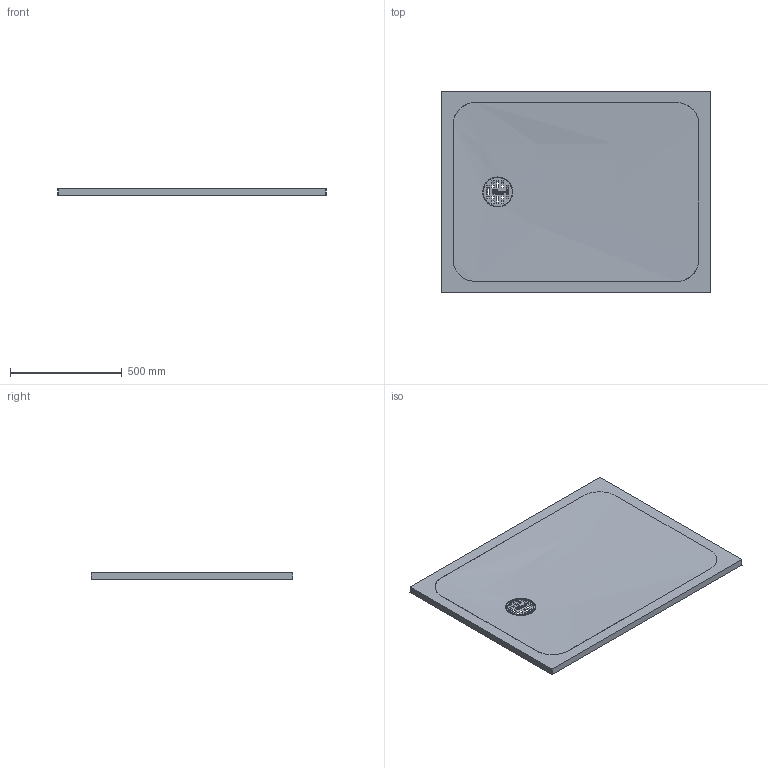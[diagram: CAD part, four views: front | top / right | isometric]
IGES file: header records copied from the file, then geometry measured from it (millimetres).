
Global section: file name: F:\2016 PROGETTI\006_DUPONT CORIAN_BATHS N SHOWER\3D FOR 3D PDF\FOR COMPOSER FROM MAX\FOR 3D FORMATS\IEGS\SMART 8222.igs; native system: Rhinoceros ( Oct  8 2013 ); preprocessor: Trout Lake IGES 012 Oct  8 2013; date: 160628.130843; units: millimetre
Bounding box: 1201.05 x 901.05 x 30 mm (x, y, z)
Surface area: 2494686.4 mm2 (no closed solid volume)
Topology: 0 solids, 0 shells, 848 faces, 13820 edges, 13802 vertices
Faces by surface type: bspline 848
